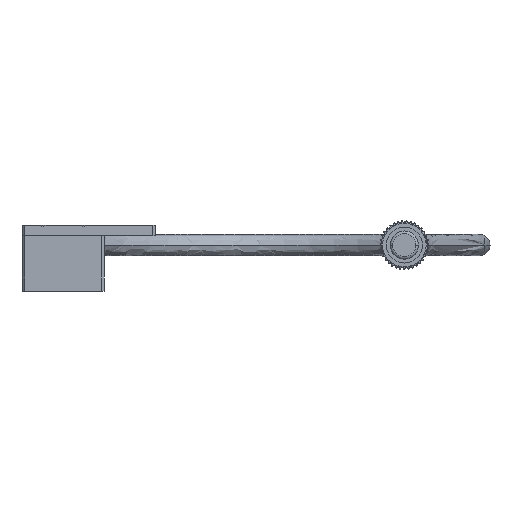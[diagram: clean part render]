
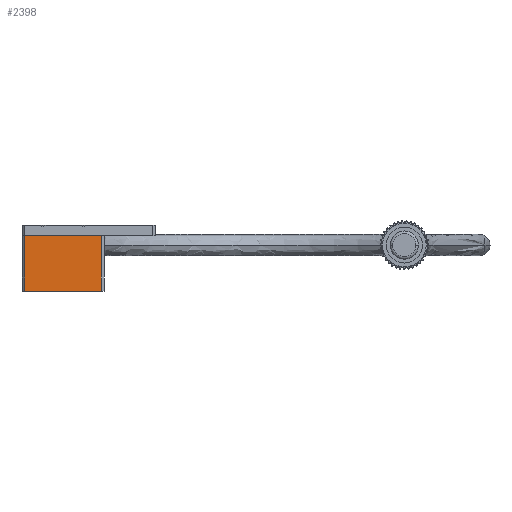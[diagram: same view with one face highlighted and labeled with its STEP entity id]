
A CAD part, front view. The second image highlights one B-rep face of the part: STEP entity #2398.
In plain terms, the highlighted planar face has unit normal (0, -1, 0).
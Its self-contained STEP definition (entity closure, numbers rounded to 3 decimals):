
#1947 = VERTEX_POINT ( 'NONE', #17160 ) ;
#2138 = EDGE_CURVE ( 'NONE', #2211, #1947, #19983, .T. ) ;
#2211 = VERTEX_POINT ( 'NONE', #17373 ) ;
#2241 = ORIENTED_EDGE ( 'NONE', *, *, #2243, .T. ) ;
#2243 = EDGE_CURVE ( 'NONE', #2515, #1947, #17892, .T. ) ;
#2386 = EDGE_LOOP ( 'NONE', ( #2399, #2400, #2667, #2241 ) ) ;
#2398 = ADVANCED_FACE ( 'NONE', ( #18881 ), #19009, .F. ) ;
#2399 = ORIENTED_EDGE ( 'NONE', *, *, #2138, .F. ) ;
#2400 = ORIENTED_EDGE ( 'NONE', *, *, #2664, .T. ) ;
#2515 = VERTEX_POINT ( 'NONE', #19571 ) ;
#2530 = EDGE_CURVE ( 'NONE', #2532, #2515, #19489, .T. ) ;
#2532 = VERTEX_POINT ( 'NONE', #19485 ) ;
#2664 = EDGE_CURVE ( 'NONE', #2211, #2532, #4872, .T. ) ;
#2667 = ORIENTED_EDGE ( 'NONE', *, *, #2530, .T. ) ;
#4868 = DIRECTION ( 'NONE',  ( 0., 0., 1. ) ) ;
#4869 = VECTOR ( 'NONE', #4868, 1000. ) ;
#4870 = CARTESIAN_POINT ( 'NONE',  ( 6.893, -8.094, -8.05 ) ) ;
#4872 = LINE ( 'NONE', #4870, #4869 ) ;
#17160 = CARTESIAN_POINT ( 'NONE',  ( -8.107, -8.094, -8.05 ) ) ;
#17373 = CARTESIAN_POINT ( 'NONE',  ( 6.893, -8.094, -8.05 ) ) ;
#17889 = DIRECTION ( 'NONE',  ( 0., 0., -1. ) ) ;
#17890 = VECTOR ( 'NONE', #17889, 1000. ) ;
#17891 = CARTESIAN_POINT ( 'NONE',  ( -8.107, -8.094, -8.05 ) ) ;
#17892 = LINE ( 'NONE', #17891, #17890 ) ;
#18881 = FACE_OUTER_BOUND ( 'NONE', #2386, .T. ) ;
#18911 = DIRECTION ( 'NONE',  ( 0., 1., 0. ) ) ;
#18931 = AXIS2_PLACEMENT_3D ( 'NONE', #18987, #18911, #19008 ) ;
#18987 = CARTESIAN_POINT ( 'NONE',  ( 7.393, -8.094, -8.05 ) ) ;
#19008 = DIRECTION ( 'NONE',  ( 0., 0., -1. ) ) ;
#19009 = PLANE ( 'NONE',  #18931 ) ;
#19485 = CARTESIAN_POINT ( 'NONE',  ( 6.893, -8.094, 2.85 ) ) ;
#19486 = DIRECTION ( 'NONE',  ( -1., 0., 0. ) ) ;
#19487 = VECTOR ( 'NONE', #19486, 1000. ) ;
#19488 = CARTESIAN_POINT ( 'NONE',  ( 7.393, -8.094, 2.85 ) ) ;
#19489 = LINE ( 'NONE', #19488, #19487 ) ;
#19571 = CARTESIAN_POINT ( 'NONE',  ( -8.107, -8.094, 2.85 ) ) ;
#19980 = DIRECTION ( 'NONE',  ( -1., 0., 0. ) ) ;
#19981 = VECTOR ( 'NONE', #19980, 1000. ) ;
#19982 = CARTESIAN_POINT ( 'NONE',  ( 7.393, -8.094, -8.05 ) ) ;
#19983 = LINE ( 'NONE', #19982, #19981 ) ;
